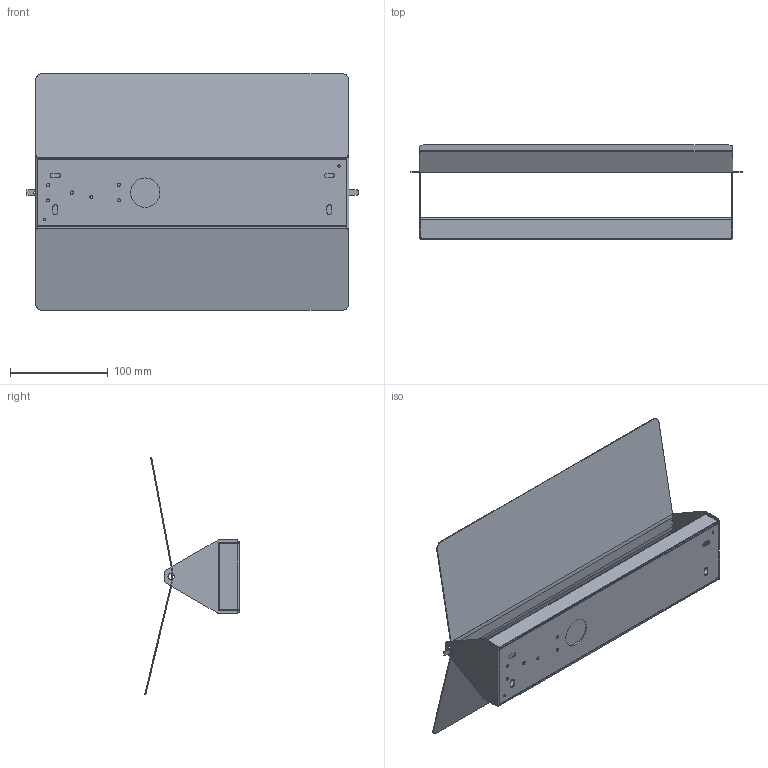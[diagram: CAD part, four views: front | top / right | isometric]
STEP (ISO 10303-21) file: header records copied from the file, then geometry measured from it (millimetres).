
FILE_DESCRIPTION (( 'STEP AP214' ), '1' );
FILE_NAME ('DIMENSIONS_APPLIQUE_A_VOLET_PIVOTANT_PLIE.STEP', '2014-04-17T10:09:43', ( '' ), ( '' ), 'SwSTEP 2.0', 'SolidWorks 2012', '' );
FILE_SCHEMA (( 'AUTOMOTIVE_DESIGN' ));
Length unit declared in the file: millimetre
Products named in the file (4): Volee plie; Cover staffa double; Staffa double; DIMENSIONS_APPLIQUE_A_VOLET_PIVOTANT_PLIE
Assembly tree (3 placements, depth 2):
  DIMENSIONS_APPLIQUE_A_VOLET_PIVOTANT_PLIE
    Staffa double
    Cover staffa double
    Volee plie
Bounding box: 339.39 x 96.55 x 242.27 mm (x, y, z)
Volume: 144134.7 mm3; surface area: 291626.4 mm2
Topology: 3 solids, 3 shells, 130 faces, 372 edges, 248 vertices
Faces by surface type: cylinder 60, plane 58, bspline 12
Entity records: 4678 total; most frequent: CARTESIAN_POINT 1008, ORIENTED_EDGE 744, DIRECTION 724, EDGE_CURVE 372, AXIS2_PLACEMENT_3D 252, VERTEX_POINT 248, LINE 220, VECTOR 220
